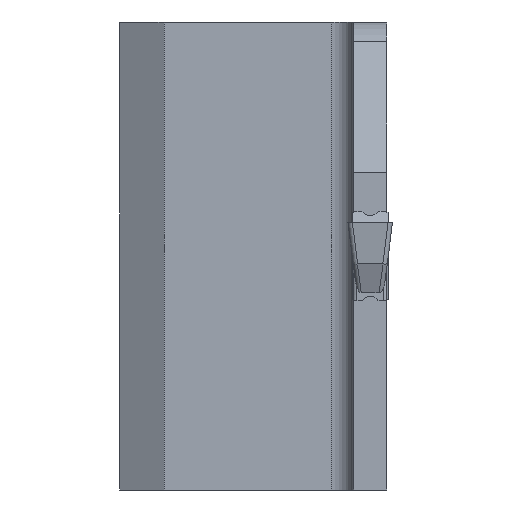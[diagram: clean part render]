
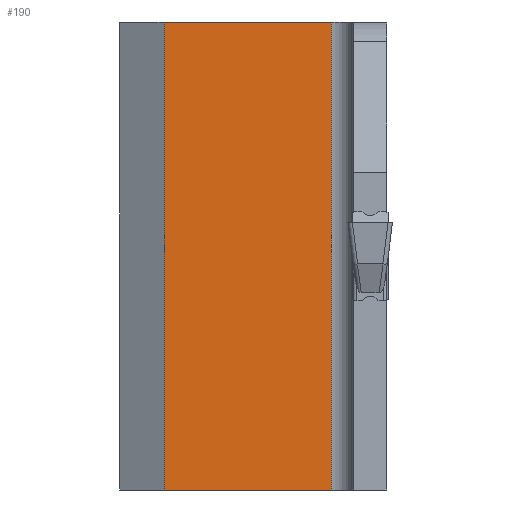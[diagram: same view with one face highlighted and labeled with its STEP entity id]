
A CAD part, left-side view. The second image highlights one B-rep face of the part: STEP entity #190.
In plain terms, the highlighted planar face has unit normal (-1, 0, 0).
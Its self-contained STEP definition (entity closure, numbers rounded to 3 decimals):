
#190=ADVANCED_FACE('',(#323),#269,.T.);
#269=PLANE('',#1539);
#323=FACE_OUTER_BOUND('',#402,.T.);
#402=EDGE_LOOP('',(#527,#528,#529,#530));
#527=ORIENTED_EDGE('',*,*,#1056,.F.);
#528=ORIENTED_EDGE('',*,*,#1043,.T.);
#529=ORIENTED_EDGE('',*,*,#1057,.T.);
#530=ORIENTED_EDGE('',*,*,#1049,.F.);
#904=VERTEX_POINT('',#2099);
#905=VERTEX_POINT('',#2101);
#908=VERTEX_POINT('',#2110);
#909=VERTEX_POINT('',#2112);
#1043=EDGE_CURVE('',#905,#904,#1244,.T.);
#1049=EDGE_CURVE('',#908,#909,#1250,.T.);
#1056=EDGE_CURVE('',#905,#908,#1255,.T.);
#1057=EDGE_CURVE('',#904,#909,#1256,.T.);
#1244=LINE('',#2100,#1395);
#1250=LINE('',#2111,#1401);
#1255=LINE('',#2124,#1406);
#1256=LINE('',#2126,#1407);
#1395=VECTOR('',#1688,1.);
#1401=VECTOR('',#1696,1.);
#1406=VECTOR('',#1709,1.);
#1407=VECTOR('',#1712,1.);
#1539=AXIS2_PLACEMENT_3D('',#2127,#1713,#1714);
#1688=DIRECTION('',(0.,-1.,0.));
#1696=DIRECTION('',(0.,-1.,0.));
#1709=DIRECTION('',(0.,0.,1.));
#1712=DIRECTION('',(0.,0.,1.));
#1713=DIRECTION('',(-1.,0.,0.));
#1714=DIRECTION('',(0.,0.,-1.));
#2099=CARTESIAN_POINT('',(15.5,1.75,-12.));
#2100=CARTESIAN_POINT('',(15.5,9.25,-12.));
#2101=CARTESIAN_POINT('',(15.5,9.25,-12.));
#2110=CARTESIAN_POINT('',(15.5,9.25,9.));
#2111=CARTESIAN_POINT('',(15.5,9.25,9.));
#2112=CARTESIAN_POINT('',(15.5,1.75,9.));
#2124=CARTESIAN_POINT('',(15.5,9.25,-12.));
#2126=CARTESIAN_POINT('',(15.5,1.75,-12.));
#2127=CARTESIAN_POINT('',(15.5,9.25,-12.));
